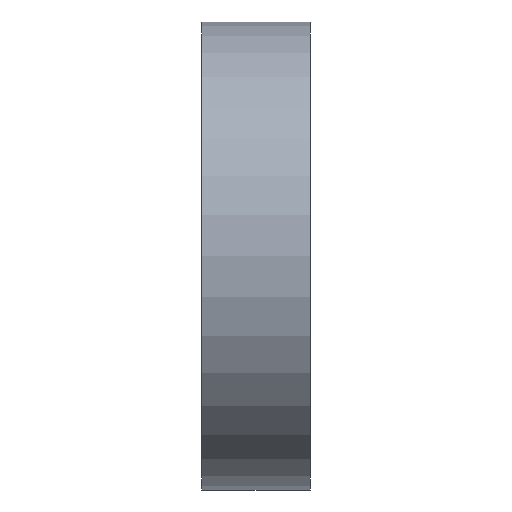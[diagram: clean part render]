
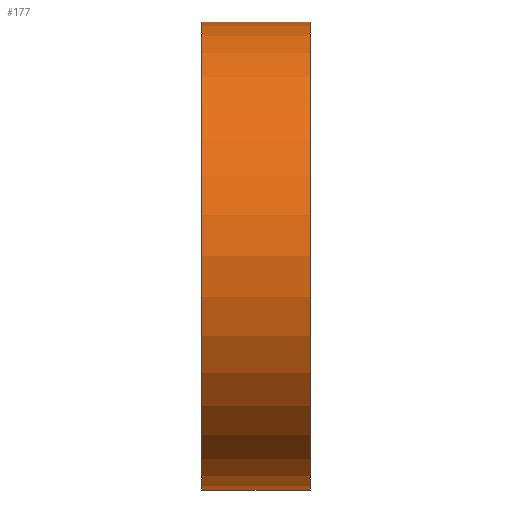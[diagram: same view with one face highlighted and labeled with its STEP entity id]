
A CAD part, left-side view. The second image highlights one B-rep face of the part: STEP entity #177.
In plain terms, the highlighted cylindrical face has radius 22.5 mm (diameter 45 mm), a partial arc.
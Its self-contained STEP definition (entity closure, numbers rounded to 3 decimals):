
#58 = CARTESIAN_POINT ( 'NONE',  ( 0., 10.4, 0. ) ) ;
#66 = ORIENTED_EDGE ( 'NONE', *, *, #951, .T. ) ;
#102 = DIRECTION ( 'NONE',  ( 0., -1., 0. ) ) ;
#162 = VERTEX_POINT ( 'NONE', #1491 ) ;
#177 = ADVANCED_FACE ( 'NONE', ( #408 ), #1480, .T. ) ;
#198 = VECTOR ( 'NONE', #102, 1000. ) ;
#223 = VERTEX_POINT ( 'NONE', #1342 ) ;
#248 = CARTESIAN_POINT ( 'NONE',  ( 0., 0., -22.5 ) ) ;
#312 = CARTESIAN_POINT ( 'NONE',  ( 0., 10.4, 22.5 ) ) ;
#350 = VERTEX_POINT ( 'NONE', #312 ) ;
#408 = FACE_OUTER_BOUND ( 'NONE', #1560, .T. ) ;
#417 = EDGE_CURVE ( 'NONE', #223, #350, #429, .T. ) ;
#418 = ORIENTED_EDGE ( 'NONE', *, *, #566, .F. ) ;
#429 = CIRCLE ( 'NONE', #986, 22.5 ) ;
#542 = DIRECTION ( 'NONE',  ( 0., 0., 1. ) ) ;
#565 = CARTESIAN_POINT ( 'NONE',  ( 0., 10.4, -22.5 ) ) ;
#566 = EDGE_CURVE ( 'NONE', #350, #162, #945, .T. ) ;
#630 = ORIENTED_EDGE ( 'NONE', *, *, #812, .T. ) ;
#656 = AXIS2_PLACEMENT_3D ( 'NONE', #797, #790, #1498 ) ;
#689 = VERTEX_POINT ( 'NONE', #248 ) ;
#696 = LINE ( 'NONE', #565, #198 ) ;
#705 = VECTOR ( 'NONE', #1183, 1000. ) ;
#752 = DIRECTION ( 'NONE',  ( 0., 0., -1. ) ) ;
#778 = DIRECTION ( 'NONE',  ( 0., 1., 0. ) ) ;
#790 = DIRECTION ( 'NONE',  ( 0., 1., 0. ) ) ;
#797 = CARTESIAN_POINT ( 'NONE',  ( 0., 0., 0. ) ) ;
#812 = EDGE_CURVE ( 'NONE', #689, #162, #1218, .T. ) ;
#871 = CARTESIAN_POINT ( 'NONE',  ( 0., 10.4, 0. ) ) ;
#945 = LINE ( 'NONE', #1458, #705 ) ;
#951 = EDGE_CURVE ( 'NONE', #223, #689, #696, .T. ) ;
#986 = AXIS2_PLACEMENT_3D ( 'NONE', #58, #778, #542 ) ;
#987 = DIRECTION ( 'NONE',  ( 0., -1., 0. ) ) ;
#1077 = ORIENTED_EDGE ( 'NONE', *, *, #417, .F. ) ;
#1183 = DIRECTION ( 'NONE',  ( 0., -1., 0. ) ) ;
#1218 = CIRCLE ( 'NONE', #656, 22.5 ) ;
#1342 = CARTESIAN_POINT ( 'NONE',  ( 0., 10.4, -22.5 ) ) ;
#1458 = CARTESIAN_POINT ( 'NONE',  ( 0., 10.4, 22.5 ) ) ;
#1480 = CYLINDRICAL_SURFACE ( 'NONE', #1547, 22.5 ) ;
#1491 = CARTESIAN_POINT ( 'NONE',  ( 0., 0., 22.5 ) ) ;
#1498 = DIRECTION ( 'NONE',  ( 0., 0., 1. ) ) ;
#1547 = AXIS2_PLACEMENT_3D ( 'NONE', #871, #987, #752 ) ;
#1560 = EDGE_LOOP ( 'NONE', ( #418, #1077, #66, #630 ) ) ;
